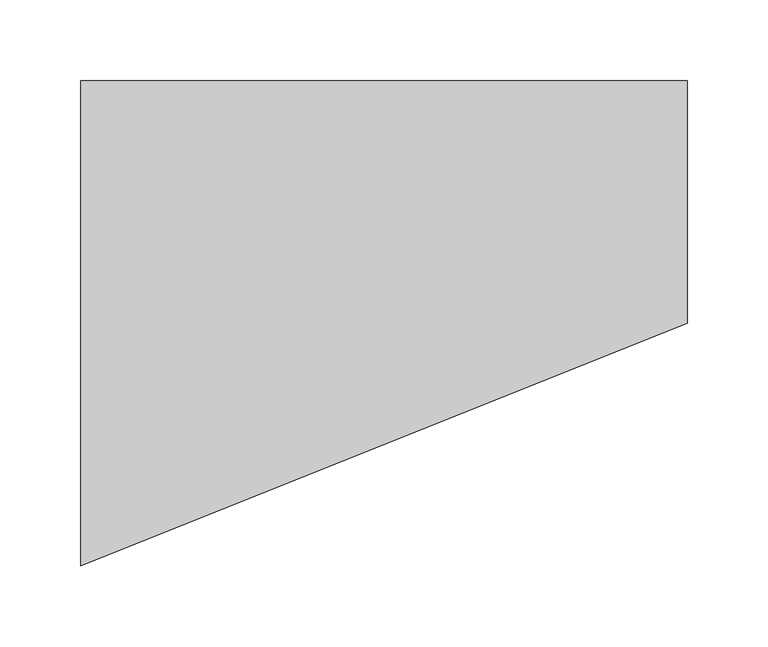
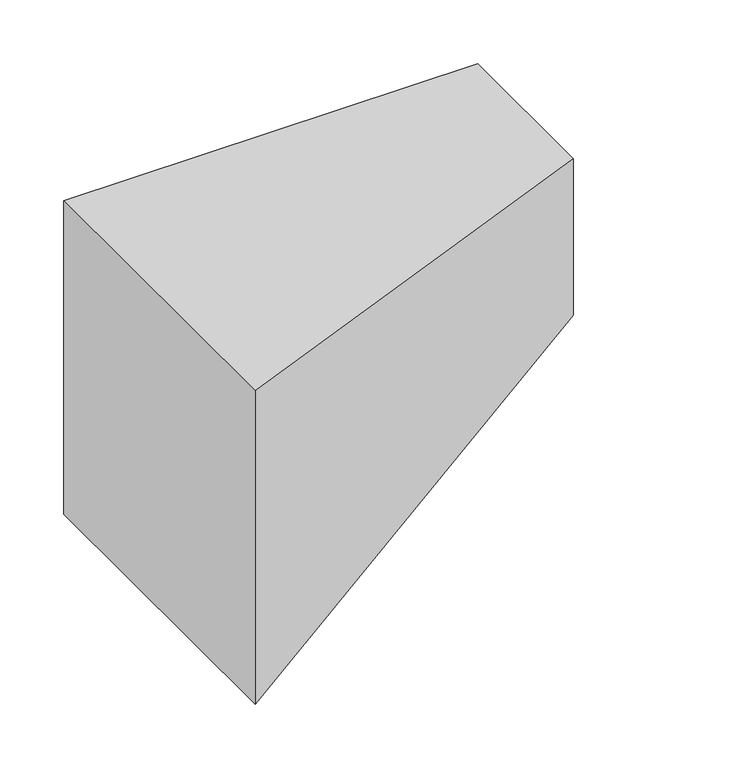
"""IFC4 building model written with IfcOpenShell, lengths in millimetres: duct fitting geometry, BL_ПереходникВоздуховодов_Прямоугольный : BL_ПереходникВоздуховодов_Прямоугольный."""

import ifcopenshell
import ifcopenshell.guid

model = None  # the IFC model being written
_history = None  # IfcOwnerHistory: only IFC2X3 demands one
_inside = {}  # id of a spatial element -> (the spatial element, [elements in it])
_under = {}  # id of a project, library or spatial element -> (it, [spatial elements below it])
_declared = {}  # id of a project -> (the project, [libraries it declares])
_typed = {}  # id of a type object -> (the type object, [elements of that type])
_made_of = {}  # id of a material, layer set ... -> (it, [elements and type objects made of it])


def new_model(schema):
    """Start an empty IFC model of exactly this schema.

    Asked for "IFC4X3", IfcOpenShell would pick the latest addendum, in which some entities
    have other attributes; the version numbers below select the first issue.
    IFC2X3 requires an IfcOwnerHistory on every rooted entity: one is made here for all.
    """
    global model, _history
    if schema == "IFC4X3":
        model = ifcopenshell.file(schema_version=(4, 3, 0, 0))
    else:
        model = ifcopenshell.file(schema=schema)
    _inside.clear()
    _under.clear()
    _declared.clear()
    _typed.clear()
    _made_of.clear()
    _history = None
    if model.schema == "IFC2X3":
        org = make("IfcOrganization", Name="unknown")
        user = make(
            "IfcPersonAndOrganization",
            ThePerson=make("IfcPerson", FamilyName="unknown"),
            TheOrganization=org,
        )
        app = make(
            "IfcApplication",
            ApplicationDeveloper=org,
            Version="unknown",
            ApplicationFullName="unknown",
            ApplicationIdentifier="unknown",
        )
        _history = make(
            "IfcOwnerHistory",
            OwningUser=user,
            OwningApplication=app,
            ChangeAction="ADDED",
            CreationDate=0,
        )
    return model


def make(cls, **values):
    """One entity of the class cls with the attributes given. An attribute that is None is left unset."""
    return model.create_entity(
        cls, **{name: value for name, value in values.items() if value is not None}
    )


def rooted(cls, **values):
    """An entity with a GlobalId (a new one), such as an element, a storey or a relation."""
    return make(cls, GlobalId=ifcopenshell.guid.new(), OwnerHistory=_history, **values)


def si_unit(unit_type, name, prefix=None):
    """IfcSIUnit, for example si_unit("LENGTHUNIT", "METRE", prefix="MILLI")."""
    return make("IfcSIUnit", UnitType=unit_type, Prefix=prefix, Name=name)


def assignment(units):
    """IfcUnitAssignment: the units of a project."""
    return None if units is None else make("IfcUnitAssignment", Units=units)


def point(xyz):
    """IfcCartesianPoint."""
    return None if xyz is None else make("IfcCartesianPoint", Coordinates=xyz)


def direction(xyz):
    """IfcDirection."""
    return None if xyz is None else make("IfcDirection", DirectionRatios=xyz)


def frame(location, z_axis=None, x_axis=None):
    """IfcAxis2Placement3D, a coordinate frame: its origin and axes. An axis left out is left unset."""
    return make(
        "IfcAxis2Placement3D",
        Location=point(location),
        Axis=direction(z_axis),
        RefDirection=direction(x_axis),
    )


def origin():
    """The frame at (0, 0, 0) with its axes left unset."""
    return frame((0.0, 0.0, 0.0))


def place(relative_to, where):
    """IfcLocalPlacement: puts the frame where relative to a parent placement (None: the world)."""
    return make(
        "IfcLocalPlacement", PlacementRelTo=relative_to, RelativePlacement=where
    )


def context(
    kind, dimensions, precision=None, world=None, true_north=None, identifier=None
):
    """IfcGeometricRepresentationContext, for example the 3D "Model" context."""
    return make(
        "IfcGeometricRepresentationContext",
        ContextIdentifier=identifier,
        ContextType=kind,
        CoordinateSpaceDimension=dimensions,
        Precision=precision,
        WorldCoordinateSystem=world,
        TrueNorth=true_north,
    )


def project(units=None, contexts=None):
    """IfcProject with its units and contexts."""
    return rooted(
        "IfcProject",
        Name="project",
        RepresentationContexts=contexts,
        UnitsInContext=assignment(units),
    )


def spatial(cls, under=None, at=None, **own):
    """A site, building, storey or space (cls), placed at a placement, below another one or the project."""
    s = rooted(cls, ObjectPlacement=at, **own)
    if under is not None:
        _under.setdefault(under.id(), (under, []))[1].append(s)
    return s


def faces_of(points, faces, orient=None, outer=None):
    """IfcFace entities. A face is a list of loops; a loop is a list of indices into points, from 0.

    orient and outer hold one flag for each loop. By default every Orientation is true, the
    first loop of a face is its IfcFaceOuterBound and the others are IfcFaceBound.
    """
    made = []
    for i, loops in enumerate(faces):
        bounds = []
        for j, loop in enumerate(loops):
            is_outer = j == 0 if outer is None else outer[i][j]
            bounds.append(
                make(
                    "IfcFaceOuterBound" if is_outer else "IfcFaceBound",
                    Bound=make("IfcPolyLoop", Polygon=[points[k] for k in loop]),
                    Orientation=True if orient is None else orient[i][j],
                )
            )
        made.append(make("IfcFace", Bounds=bounds))
    return made


def faceted_brep(points, faces, orient=None, outer=None, voids=None):
    """IfcFacetedBrep: a solid bounded by flat faces; with voids (closed shells), ...WithVoids."""
    shared = [point(p) for p in points]
    hull = make("IfcClosedShell", CfsFaces=faces_of(shared, faces, orient, outer))
    if voids is None:
        return make("IfcFacetedBrep", Outer=hull)
    return make(
        "IfcFacetedBrepWithVoids",
        Outer=hull,
        Voids=[
            make(cls, CfsFaces=faces_of(shared, fs, o, b)) for cls, fs, o, b in voids
        ],
    )


def shape(context_of_items, identifier, shape_type, items):
    """IfcShapeRepresentation: the items that make up one representation, for example the "Body"."""
    return make(
        "IfcShapeRepresentation",
        ContextOfItems=context_of_items,
        RepresentationIdentifier=identifier,
        RepresentationType=shape_type,
        Items=items,
    )


def source(mapping_origin, context_of_items, identifier, shape_type, items):
    """IfcRepresentationMap: a shape defined once, which mapped items show again and again."""
    return make(
        "IfcRepresentationMap",
        MappingOrigin=mapping_origin,
        MappedRepresentation=shape(context_of_items, identifier, shape_type, items),
    )


def transform(
    local_origin,
    x_axis=None,
    y_axis=None,
    z_axis=None,
    scale=None,
    scale2=None,
    scale3=None,
    uniform=True,
):
    """IfcCartesianTransformationOperator3D, or its non-uniform kind. x_axis, y_axis, z_axis: its Axis1, 2, 3."""
    if uniform:
        return make(
            "IfcCartesianTransformationOperator3D",
            Axis1=direction(x_axis),
            Axis2=direction(y_axis),
            LocalOrigin=point(local_origin),
            Scale=scale,
            Axis3=direction(z_axis),
        )
    return make(
        "IfcCartesianTransformationOperator3DnonUniform",
        Axis1=direction(x_axis),
        Axis2=direction(y_axis),
        LocalOrigin=point(local_origin),
        Scale=scale,
        Axis3=direction(z_axis),
        Scale2=scale2,
        Scale3=scale3,
    )


def mapped(mapping_source, mapping_target):
    """IfcMappedItem: shows the shape of a source again, moved by a transform."""
    return make(
        "IfcMappedItem", MappingSource=mapping_source, MappingTarget=mapping_target
    )


def made_of(thing, what):
    """Note that an element or type object is made of a material, layer set ...; save() writes the relation."""
    if what is not None:
        _made_of.setdefault(what.id(), (what, []))[1].append(thing)
    return thing


def element(
    cls,
    number,
    at=None,
    inside=None,
    cuts=None,
    type_object=None,
    material=None,
    context=None,
    identifier="Body",
    shape_type=None,
    held_by="IfcProductDefinitionShape",
    body=None,
    shapes=None,
    **own,
):
    """One element of the class cls, such as IfcWall. Its Tag is "e" and its number.

    at: its placement. inside: the storey or other place that contains it. cuts: it is an
    opening in that element (IfcRelVoidsElement). A single representation is given by context,
    identifier, shape_type and body (its items); several are given by shapes. held_by: the class
    of the entity that holds the representations. save() writes the other relations.
    """
    e = rooted(cls, Tag="e%d" % number, ObjectPlacement=at, **own)
    if body is not None:
        shapes = [shape(context, identifier, shape_type, body)]
    if shapes is not None:
        e.Representation = make(held_by, Representations=shapes)
    if inside is not None:
        _inside.setdefault(inside.id(), (inside, []))[1].append(e)
    if cuts is not None:
        rooted(
            "IfcRelVoidsElement", RelatingBuildingElement=cuts, RelatedOpeningElement=e
        )
    if type_object is not None:
        _typed.setdefault(type_object.id(), (type_object, []))[1].append(e)
    return made_of(e, material)


def aggregate(whole, parts):
    """IfcRelAggregates: a whole, such as a stair, and the parts it consists of."""
    return rooted("IfcRelAggregates", RelatingObject=whole, RelatedObjects=parts)


def save(model, path):
    """Write the relations noted so far, then the file.

    IfcRelAggregates (storeys below a building ...), IfcRelContainedInSpatialStructure (elements
    in a storey), IfcRelDefinesByType, IfcRelAssociatesMaterial and IfcRelDeclares: one each for
    every whole, place, type object, material and project.
    """
    for whole, parts in _under.values():
        aggregate(whole, parts)
    for where, things in _inside.values():
        rooted(
            "IfcRelContainedInSpatialStructure",
            RelatedElements=things,
            RelatingStructure=where,
        )
    for kind, things in _typed.values():
        rooted("IfcRelDefinesByType", RelatedObjects=things, RelatingType=kind)
    for what, things in _made_of.values():
        rooted("IfcRelAssociatesMaterial", RelatedObjects=things, RelatingMaterial=what)
    for by, libraries in _declared.values():
        rooted("IfcRelDeclares", RelatingContext=by, RelatedDefinitions=libraries)
    model.write(path)


def duct_fitting_9e6904b6(model_context):
    return source(origin(), model_context, "Body", "Brep", [
        faceted_brep([(375.0, 0.0, 150.0), (375.0, 0.0, 0.0), (375.0, 150.0, 0.0), (375.0, 150.0, 150.0), (0.0, -150.0, 150.0), (0.0, 150.0, 150.0), (0.0, 150.0, -150.0), (0.0, -150.0, -150.0)], [[[0, 1, 2, 3]], [[4, 5, 6, 7]], [[4, 7, 1, 0]], [[7, 6, 2, 1]], [[6, 5, 3, 2]], [[5, 4, 0, 3]]]),
    ])


if __name__ == "__main__":
    model = new_model("IFC4")
    model_context = context("Model", 3, world=origin())
    ifc_project = project(units=[si_unit("LENGTHUNIT", "METRE", prefix="MILLI")], contexts=[model_context])
    site = spatial("IfcSite", under=ifc_project)
    building = spatial("IfcBuilding", under=site)
    placement = place(None, origin())
    duct_fitting_shape = duct_fitting_9e6904b6(model_context)
    element("IfcDuctFitting", 1, ObjectType="BL_ПереходникВоздуховодов_Прямоугольный : BL_ПереходникВоздуховодов_Прямоугольный", at=placement, inside=building, context=model_context, shape_type="MappedRepresentation", body=[
        mapped(duct_fitting_shape, transform((0.0, 0.0, 0.0), x_axis=(1.0, 0.0, 0.0), y_axis=(0.0, 1.0, 0.0), z_axis=(0.0, 0.0, 1.0))),
    ])
    save(model, "model.ifc")
